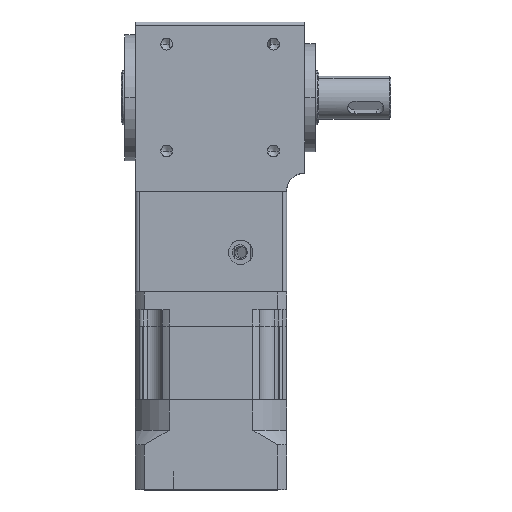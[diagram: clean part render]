
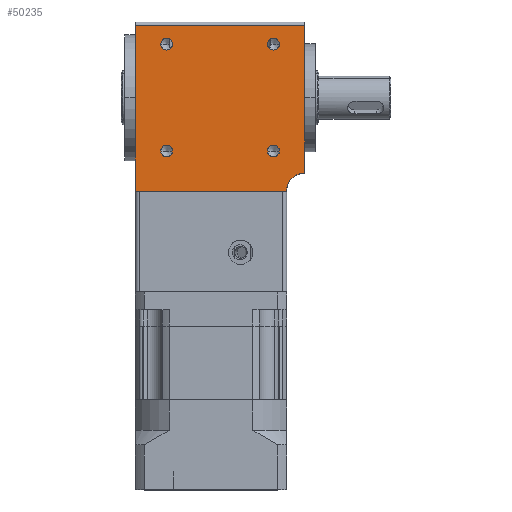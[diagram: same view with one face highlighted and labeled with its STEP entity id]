
A CAD part, top view. The second image highlights one B-rep face of the part: STEP entity #50235.
In plain terms, the highlighted planar face has unit normal (0, 0, 1).
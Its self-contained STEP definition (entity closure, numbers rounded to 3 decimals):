
#293 = ORIENTED_EDGE ( 'NONE', *, *, #38565, .F. ) ;
#448 = CARTESIAN_POINT ( 'NONE',  ( 10.001, 17.349, 21. ) ) ;
#479 = CIRCLE ( 'NONE', #4255, 1.65 ) ;
#487 = ORIENTED_EDGE ( 'NONE', *, *, #61338, .F. ) ;
#1765 = CARTESIAN_POINT ( 'NONE',  ( 41.349, 17.349, 21. ) ) ;
#2844 = CIRCLE ( 'NONE', #35977, 1.65 ) ;
#3170 = CIRCLE ( 'NONE', #36277, 1.65 ) ;
#3313 = VERTEX_POINT ( 'NONE', #7875 ) ;
#3864 = EDGE_LOOP ( 'NONE', ( #64455, #487, #47909, #44677, #30203 ) ) ;
#4255 = AXIS2_PLACEMENT_3D ( 'NONE', #1765, #37586, #6996 ) ;
#4906 = AXIS2_PLACEMENT_3D ( 'NONE', #58058, #58046, #57906 ) ;
#5270 = CARTESIAN_POINT ( 'NONE',  ( 3., 0., 21. ) ) ;
#5865 = VECTOR ( 'NONE', #55206, 1000. ) ;
#6320 = EDGE_CURVE ( 'NONE', #3313, #53270, #19427, .T. ) ;
#6534 = CARTESIAN_POINT ( 'NONE',  ( 41.349, -12.349, 21. ) ) ;
#6852 = EDGE_CURVE ( 'NONE', #8466, #23115, #53362, .T. ) ;
#6996 = DIRECTION ( 'NONE',  ( 1., 0., 0. ) ) ;
#7875 = CARTESIAN_POINT ( 'NONE',  ( 3., -23.5, 21. ) ) ;
#8314 = VERTEX_POINT ( 'NONE', #448 ) ;
#8466 = VERTEX_POINT ( 'NONE', #64149 ) ;
#8629 = EDGE_CURVE ( 'NONE', #25841, #8314, #26549, .T. ) ;
#10966 = AXIS2_PLACEMENT_3D ( 'NONE', #42867, #12196, #48182 ) ;
#11675 = DIRECTION ( 'NONE',  ( 1., 0., 0. ) ) ;
#12079 = CARTESIAN_POINT ( 'NONE',  ( 45., -23.5, 21. ) ) ;
#12196 = DIRECTION ( 'NONE',  ( 0., 0., 1. ) ) ;
#13185 = EDGE_LOOP ( 'NONE', ( #27266, #54918 ) ) ;
#13303 = EDGE_CURVE ( 'NONE', #24998, #33740, #41334, .T. ) ;
#13308 = CARTESIAN_POINT ( 'NONE',  ( 13.301, -12.349, 21. ) ) ;
#13635 = CARTESIAN_POINT ( 'NONE',  ( 50., -23.5, 21. ) ) ;
#14216 = CARTESIAN_POINT ( 'NONE',  ( 11.651, 17.349, 21. ) ) ;
#14477 = DIRECTION ( 'NONE',  ( 1., 0., 0. ) ) ;
#14640 = DIRECTION ( 'NONE',  ( -1., 0., 0. ) ) ;
#14917 = CARTESIAN_POINT ( 'NONE',  ( 39.699, 17.349, 21. ) ) ;
#14978 = DIRECTION ( 'NONE',  ( 0., 0., 1. ) ) ;
#15682 = VECTOR ( 'NONE', #14477, 1000. ) ;
#15813 = CARTESIAN_POINT ( 'NONE',  ( 41.349, -12.349, 21. ) ) ;
#16047 = CARTESIAN_POINT ( 'NONE',  ( 53., 22.5, 21. ) ) ;
#16335 = FACE_OUTER_BOUND ( 'NONE', #3864, .T. ) ;
#16420 = ORIENTED_EDGE ( 'NONE', *, *, #46861, .F. ) ;
#17154 = AXIS2_PLACEMENT_3D ( 'NONE', #45742, #14978, #51048 ) ;
#18775 = DIRECTION ( 'NONE',  ( 1., 0., 0. ) ) ;
#19342 = DIRECTION ( 'NONE',  ( 1., 0., 0. ) ) ;
#19427 = LINE ( 'NONE', #55768, #5865 ) ;
#20210 = DIRECTION ( 'NONE',  ( 0., 1., 0. ) ) ;
#20246 = VERTEX_POINT ( 'NONE', #24619 ) ;
#20597 = DIRECTION ( 'NONE',  ( 0., -1., 0. ) ) ;
#20824 = CARTESIAN_POINT ( 'NONE',  ( 42.999, -12.349, 21. ) ) ;
#20937 = DIRECTION ( 'NONE',  ( 1., 0., 0. ) ) ;
#21229 = CIRCLE ( 'NONE', #39434, 5. ) ;
#21242 = EDGE_CURVE ( 'NONE', #33740, #58148, #26193, .T. ) ;
#21553 = CARTESIAN_POINT ( 'NONE',  ( 3., 22.5, 21. ) ) ;
#22203 = CARTESIAN_POINT ( 'NONE',  ( 50., 0., 21. ) ) ;
#22796 = AXIS2_PLACEMENT_3D ( 'NONE', #35877, #35818, #35741 ) ;
#23115 = VERTEX_POINT ( 'NONE', #14917 ) ;
#23179 = VERTEX_POINT ( 'NONE', #13308 ) ;
#24569 = VECTOR ( 'NONE', #20597, 1000. ) ;
#24619 = CARTESIAN_POINT ( 'NONE',  ( 39.699, -12.349, 21. ) ) ;
#24998 = VERTEX_POINT ( 'NONE', #21553 ) ;
#25841 = VERTEX_POINT ( 'NONE', #46204 ) ;
#26057 = CARTESIAN_POINT ( 'NONE',  ( 10.001, -12.349, 21. ) ) ;
#26193 = LINE ( 'NONE', #22203, #24569 ) ;
#26549 = CIRCLE ( 'NONE', #4906, 1.65 ) ;
#27266 = ORIENTED_EDGE ( 'NONE', *, *, #46836, .F. ) ;
#28676 = ORIENTED_EDGE ( 'NONE', *, *, #37644, .F. ) ;
#29946 = FACE_BOUND ( 'NONE', #38024, .T. ) ;
#30023 = EDGE_LOOP ( 'NONE', ( #48415, #16420 ) ) ;
#30203 = ORIENTED_EDGE ( 'NONE', *, *, #21242, .F. ) ;
#30400 = ORIENTED_EDGE ( 'NONE', *, *, #52372, .F. ) ;
#31943 = CARTESIAN_POINT ( 'NONE',  ( 50., 22.5, 21. ) ) ;
#32356 = CIRCLE ( 'NONE', #17154, 1.65 ) ;
#33740 = VERTEX_POINT ( 'NONE', #31943 ) ;
#34636 = VERTEX_POINT ( 'NONE', #20824 ) ;
#35741 = DIRECTION ( 'NONE',  ( 1., 0., 0. ) ) ;
#35818 = DIRECTION ( 'NONE',  ( 0., 0., 1. ) ) ;
#35877 = CARTESIAN_POINT ( 'NONE',  ( 41.349, 17.349, 21. ) ) ;
#35977 = AXIS2_PLACEMENT_3D ( 'NONE', #14216, #50268, #19342 ) ;
#36277 = AXIS2_PLACEMENT_3D ( 'NONE', #15813, #51910, #20937 ) ;
#36584 = VECTOR ( 'NONE', #20210, 1000. ) ;
#37586 = DIRECTION ( 'NONE',  ( 0., 0., 1. ) ) ;
#37644 = EDGE_CURVE ( 'NONE', #8314, #25841, #2844, .T. ) ;
#38024 = EDGE_LOOP ( 'NONE', ( #57941, #28676 ) ) ;
#38565 = EDGE_CURVE ( 'NONE', #23179, #40366, #32356, .T. ) ;
#39434 = AXIS2_PLACEMENT_3D ( 'NONE', #13635, #49672, #18775 ) ;
#39540 = AXIS2_PLACEMENT_3D ( 'NONE', #39772, #45419, #14640 ) ;
#39772 = CARTESIAN_POINT ( 'NONE',  ( 53., -23.5, 21. ) ) ;
#40204 = PLANE ( 'NONE',  #39540 ) ;
#40366 = VERTEX_POINT ( 'NONE', #26057 ) ;
#41334 = LINE ( 'NONE', #16047, #15682 ) ;
#41959 = FACE_BOUND ( 'NONE', #30023, .T. ) ;
#42320 = DIRECTION ( 'NONE',  ( 0., 0., 1. ) ) ;
#42624 = CARTESIAN_POINT ( 'NONE',  ( 50., -18.5, 21. ) ) ;
#42867 = CARTESIAN_POINT ( 'NONE',  ( 11.651, -12.349, 21. ) ) ;
#44677 = ORIENTED_EDGE ( 'NONE', *, *, #47620, .T. ) ;
#45419 = DIRECTION ( 'NONE',  ( 0., 0., -1. ) ) ;
#45742 = CARTESIAN_POINT ( 'NONE',  ( 11.651, -12.349, 21. ) ) ;
#46204 = CARTESIAN_POINT ( 'NONE',  ( 13.301, 17.349, 21. ) ) ;
#46836 = EDGE_CURVE ( 'NONE', #34636, #20246, #66012, .T. ) ;
#46861 = EDGE_CURVE ( 'NONE', #23115, #8466, #479, .T. ) ;
#46910 = FACE_BOUND ( 'NONE', #48426, .T. ) ;
#47620 = EDGE_CURVE ( 'NONE', #53270, #58148, #21229, .T. ) ;
#47909 = ORIENTED_EDGE ( 'NONE', *, *, #6320, .T. ) ;
#48182 = DIRECTION ( 'NONE',  ( 1., 0., 0. ) ) ;
#48415 = ORIENTED_EDGE ( 'NONE', *, *, #6852, .F. ) ;
#48426 = EDGE_LOOP ( 'NONE', ( #293, #30400 ) ) ;
#49672 = DIRECTION ( 'NONE',  ( 0., 0., -1. ) ) ;
#50235 = ADVANCED_FACE ( 'NONE', ( #16335, #29946, #46910, #55963, #41959 ), #40204, .F. ) ;
#50268 = DIRECTION ( 'NONE',  ( 0., 0., 1. ) ) ;
#51048 = DIRECTION ( 'NONE',  ( 1., 0., 0. ) ) ;
#51910 = DIRECTION ( 'NONE',  ( 0., 0., 1. ) ) ;
#52372 = EDGE_CURVE ( 'NONE', #40366, #23179, #57424, .T. ) ;
#53270 = VERTEX_POINT ( 'NONE', #12079 ) ;
#53362 = CIRCLE ( 'NONE', #22796, 1.65 ) ;
#54918 = ORIENTED_EDGE ( 'NONE', *, *, #66873, .F. ) ;
#55206 = DIRECTION ( 'NONE',  ( 1., 0., 0. ) ) ;
#55768 = CARTESIAN_POINT ( 'NONE',  ( 53., -23.5, 21. ) ) ;
#55963 = FACE_BOUND ( 'NONE', #13185, .T. ) ;
#57424 = CIRCLE ( 'NONE', #10966, 1.65 ) ;
#57906 = DIRECTION ( 'NONE',  ( 1., 0., 0. ) ) ;
#57941 = ORIENTED_EDGE ( 'NONE', *, *, #8629, .F. ) ;
#58046 = DIRECTION ( 'NONE',  ( 0., 0., 1. ) ) ;
#58058 = CARTESIAN_POINT ( 'NONE',  ( 11.651, 17.349, 21. ) ) ;
#58148 = VERTEX_POINT ( 'NONE', #42624 ) ;
#61137 = LINE ( 'NONE', #5270, #36584 ) ;
#61338 = EDGE_CURVE ( 'NONE', #3313, #24998, #61137, .T. ) ;
#64149 = CARTESIAN_POINT ( 'NONE',  ( 42.999, 17.349, 21. ) ) ;
#64443 = AXIS2_PLACEMENT_3D ( 'NONE', #6534, #42320, #11675 ) ;
#64455 = ORIENTED_EDGE ( 'NONE', *, *, #13303, .F. ) ;
#66012 = CIRCLE ( 'NONE', #64443, 1.65 ) ;
#66873 = EDGE_CURVE ( 'NONE', #20246, #34636, #3170, .T. ) ;
